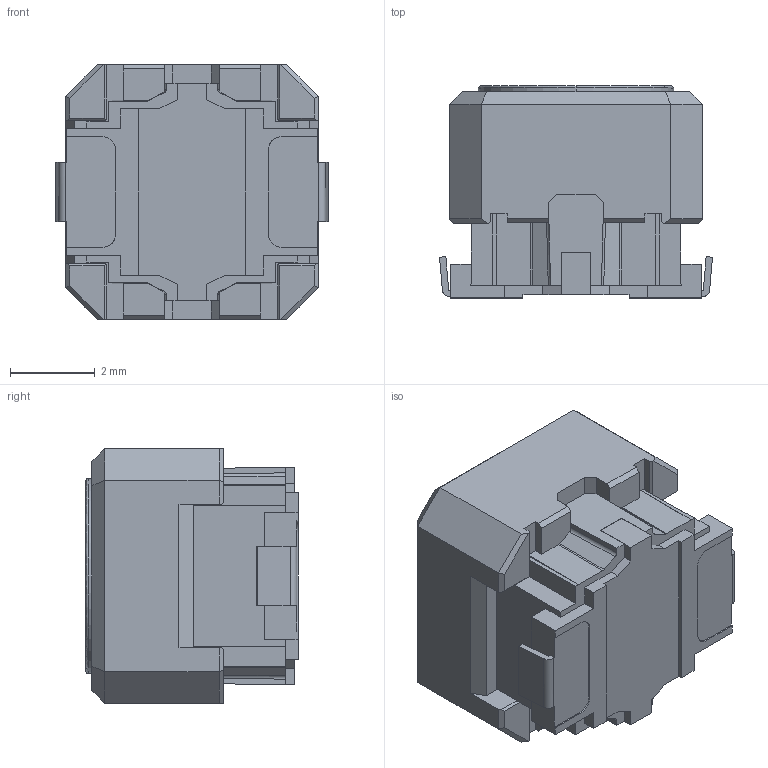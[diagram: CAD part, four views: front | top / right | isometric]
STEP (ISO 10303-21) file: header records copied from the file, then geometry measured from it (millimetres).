
FILE_DESCRIPTION (( 'STEP AP214' ), '1' );
FILE_NAME ('SKPS_new.STEP', '2016-12-19T23:59:32', ( 'user' ), ( '' ), 'SwSTEP 2.0', 'SolidWorks 2014', '' );
FILE_SCHEMA (( 'AUTOMOTIVE_DESIGN' ));
Length unit declared in the file: millimetre
Products named in the file (1): SKPS_new
Bounding box: 6.43 x 5 x 6 mm (x, y, z)
Surface area: 190.1 mm2 (no closed solid volume)
Topology: 0 solids, 17 shells, 273 faces, 724 edges, 482 vertices
Faces by surface type: plane 217, cylinder 46, cone 8, bspline 2
Entity records: 11599 total; most frequent: CARTESIAN_POINT 2086, ORIENTED_EDGE 1440, DIRECTION 1136, EDGE_CURVE 724, LINE 560, VECTOR 560, VERTEX_POINT 482, AXIS2_PLACEMENT_3D 288
